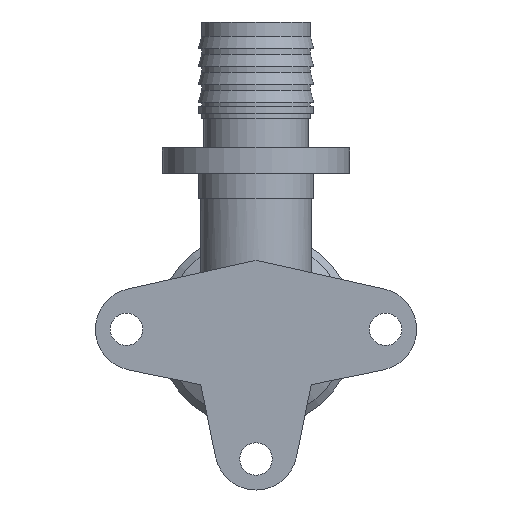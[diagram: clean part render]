
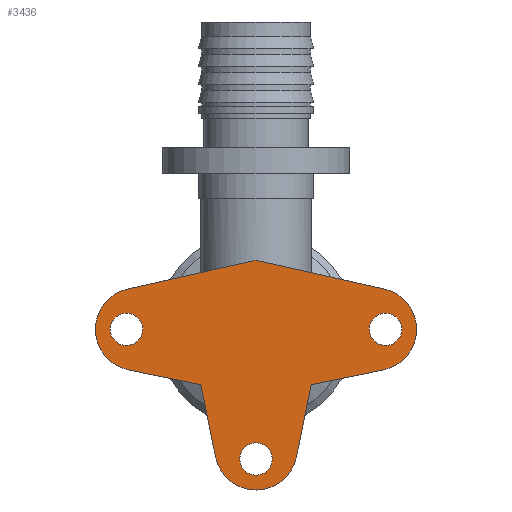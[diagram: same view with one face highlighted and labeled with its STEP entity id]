
A CAD part, front view. The second image highlights one B-rep face of the part: STEP entity #3436.
In plain terms, the highlighted planar face has unit normal (0, -1, 0).
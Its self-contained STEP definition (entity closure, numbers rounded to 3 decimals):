
#43=FACE_BOUND('',#958,.T.);
#44=FACE_BOUND('',#959,.T.);
#45=FACE_BOUND('',#960,.T.);
#240=LINE('',#6726,#468);
#244=LINE('',#6735,#472);
#246=LINE('',#6739,#474);
#256=LINE('',#6779,#484);
#258=LINE('',#6782,#486);
#259=LINE('',#6785,#487);
#468=VECTOR('',#4103,10.);
#472=VECTOR('',#4113,10.);
#474=VECTOR('',#4117,10.);
#484=VECTOR('',#4139,10.);
#486=VECTOR('',#4143,10.);
#487=VECTOR('',#4146,10.);
#616=PLANE('',#3650);
#754=FACE_OUTER_BOUND('',#957,.T.);
#957=EDGE_LOOP('',(#2757,#2758,#2759,#2760,#2761,#2762,#2763,#2764,#2765));
#958=EDGE_LOOP('',(#2766));
#959=EDGE_LOOP('',(#2767));
#960=EDGE_LOOP('',(#2768));
#1277=CIRCLE('',#3641,5.75);
#1278=CIRCLE('',#3645,5.75);
#1279=CIRCLE('',#3651,5.75);
#1280=CIRCLE('',#3652,2.25);
#1281=CIRCLE('',#3653,2.25);
#1282=CIRCLE('',#3654,2.25);
#1542=VERTEX_POINT('',#6723);
#1543=VERTEX_POINT('',#6725);
#1544=VERTEX_POINT('',#6729);
#1545=VERTEX_POINT('',#6733);
#1546=VERTEX_POINT('',#6737);
#1547=VERTEX_POINT('',#6741);
#1557=VERTEX_POINT('',#6776);
#1558=VERTEX_POINT('',#6778);
#1559=VERTEX_POINT('',#6783);
#1560=VERTEX_POINT('',#6786);
#1561=VERTEX_POINT('',#6788);
#1562=VERTEX_POINT('',#6790);
#1978=EDGE_CURVE('',#1543,#1542,#240,.T.);
#1981=EDGE_CURVE('',#1542,#1544,#1277,.T.);
#1983=EDGE_CURVE('',#1544,#1545,#244,.T.);
#1985=EDGE_CURVE('',#1545,#1546,#246,.T.);
#1987=EDGE_CURVE('',#1546,#1547,#1278,.T.);
#2000=EDGE_CURVE('',#1558,#1557,#256,.T.);
#2002=EDGE_CURVE('',#1547,#1558,#258,.T.);
#2003=EDGE_CURVE('',#1557,#1559,#1279,.T.);
#2004=EDGE_CURVE('',#1559,#1543,#259,.T.);
#2005=EDGE_CURVE('',#1560,#1560,#1280,.T.);
#2006=EDGE_CURVE('',#1561,#1561,#1281,.T.);
#2007=EDGE_CURVE('',#1562,#1562,#1282,.T.);
#2757=ORIENTED_EDGE('',*,*,#2002,.T.);
#2758=ORIENTED_EDGE('',*,*,#2000,.T.);
#2759=ORIENTED_EDGE('',*,*,#2003,.T.);
#2760=ORIENTED_EDGE('',*,*,#2004,.T.);
#2761=ORIENTED_EDGE('',*,*,#1978,.T.);
#2762=ORIENTED_EDGE('',*,*,#1981,.T.);
#2763=ORIENTED_EDGE('',*,*,#1983,.T.);
#2764=ORIENTED_EDGE('',*,*,#1985,.T.);
#2765=ORIENTED_EDGE('',*,*,#1987,.T.);
#2766=ORIENTED_EDGE('',*,*,#2005,.T.);
#2767=ORIENTED_EDGE('',*,*,#2006,.T.);
#2768=ORIENTED_EDGE('',*,*,#2007,.T.);
#3436=ADVANCED_FACE('',(#754,#43,#44,#45),#616,.T.);
#3641=AXIS2_PLACEMENT_3D('',#6731,#4108,#4109);
#3645=AXIS2_PLACEMENT_3D('',#6743,#4121,#4122);
#3650=AXIS2_PLACEMENT_3D('',#6781,#4141,#4142);
#3651=AXIS2_PLACEMENT_3D('',#6784,#4144,#4145);
#3652=AXIS2_PLACEMENT_3D('',#6787,#4147,#4148);
#3653=AXIS2_PLACEMENT_3D('',#6789,#4149,#4150);
#3654=AXIS2_PLACEMENT_3D('',#6791,#4151,#4152);
#4103=DIRECTION('',(0.199,0.,-0.98));
#4108=DIRECTION('center_axis',(0.,-1.,0.));
#4109=DIRECTION('ref_axis',(-0.98,0.,-0.199));
#4113=DIRECTION('',(0.199,0.,0.98));
#4117=DIRECTION('',(0.98,0.,0.199));
#4121=DIRECTION('center_axis',(0.,-1.,0.));
#4122=DIRECTION('ref_axis',(0.199,0.,-0.98));
#4139=DIRECTION('',(-0.976,0.,-0.218));
#4141=DIRECTION('center_axis',(0.,-1.,0.));
#4142=DIRECTION('ref_axis',(0.,0.,-1.));
#4143=DIRECTION('',(-0.976,0.,0.218));
#4144=DIRECTION('center_axis',(0.,-1.,0.));
#4145=DIRECTION('ref_axis',(-0.199,0.,0.98));
#4146=DIRECTION('',(0.98,0.,-0.199));
#4147=DIRECTION('center_axis',(0.,1.,0.));
#4148=DIRECTION('ref_axis',(-1.,0.,0.));
#4149=DIRECTION('center_axis',(0.,1.,0.));
#4150=DIRECTION('ref_axis',(-1.,0.,0.));
#4151=DIRECTION('center_axis',(0.,1.,0.));
#4152=DIRECTION('ref_axis',(-1.,0.,0.));
#6723=CARTESIAN_POINT('',(-5.635,-5.366,-17.706));
#6725=CARTESIAN_POINT('',(-7.675,-5.366,-7.675));
#6726=CARTESIAN_POINT('',(-7.693,-5.366,-7.588));
#6729=CARTESIAN_POINT('',(5.635,-5.366,-17.706));
#6731=CARTESIAN_POINT('Origin',(0.,-5.366,-16.56));
#6733=CARTESIAN_POINT('',(7.675,-5.366,-7.675));
#6735=CARTESIAN_POINT('',(5.635,-5.366,-17.706));
#6737=CARTESIAN_POINT('',(17.706,-5.366,-5.635));
#6739=CARTESIAN_POINT('',(7.588,-5.366,-7.693));
#6741=CARTESIAN_POINT('',(17.706,-5.366,5.635));
#6743=CARTESIAN_POINT('Origin',(16.56,-5.366,0.));
#6776=CARTESIAN_POINT('',(-17.706,-5.366,5.635));
#6778=CARTESIAN_POINT('',(0.,-5.366,9.59));
#6779=CARTESIAN_POINT('',(0.,-5.366,9.59));
#6781=CARTESIAN_POINT('Origin',(0.,-5.366,9.1));
#6782=CARTESIAN_POINT('',(17.706,-5.366,5.635));
#6783=CARTESIAN_POINT('',(-17.706,-5.366,-5.635));
#6784=CARTESIAN_POINT('Origin',(-16.56,-5.366,0.));
#6785=CARTESIAN_POINT('',(-17.706,-5.366,-5.635));
#6786=CARTESIAN_POINT('',(2.25,-5.366,-18.));
#6787=CARTESIAN_POINT('Origin',(0.,-5.366,-18.));
#6788=CARTESIAN_POINT('',(20.25,-5.366,0.));
#6789=CARTESIAN_POINT('Origin',(18.,-5.366,0.));
#6790=CARTESIAN_POINT('',(-15.75,-5.366,0.));
#6791=CARTESIAN_POINT('Origin',(-18.,-5.366,0.));
